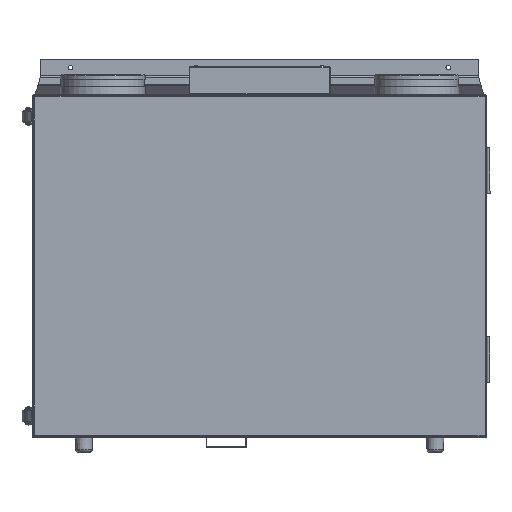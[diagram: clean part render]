
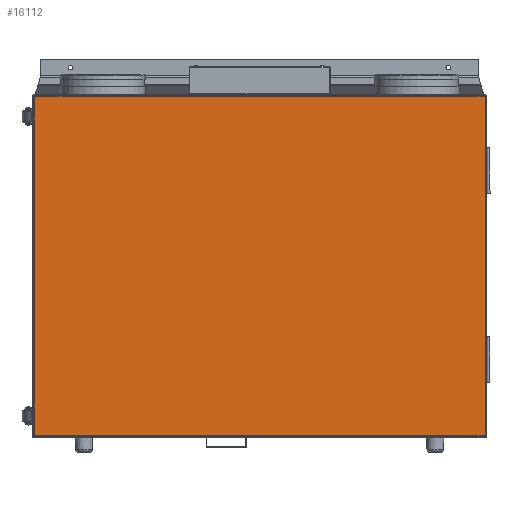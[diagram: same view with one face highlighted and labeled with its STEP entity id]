
A CAD part, top view. The second image highlights one B-rep face of the part: STEP entity #16112.
In plain terms, the highlighted planar face has unit normal (0, 0, 1) as drawn and (0, -1, 0) by its records, which use the part's own axes.
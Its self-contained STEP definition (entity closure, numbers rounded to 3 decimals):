
#444=LINE('',#24039,#1808);
#452=LINE('',#24070,#1816);
#455=LINE('',#24086,#1819);
#459=LINE('',#24094,#1823);
#460=LINE('',#24097,#1824);
#461=LINE('',#24098,#1825);
#462=LINE('',#24100,#1826);
#463=LINE('',#24101,#1827);
#1808=VECTOR('',#19375,1000.);
#1816=VECTOR('',#19403,1000.);
#1819=VECTOR('',#19418,1000.);
#1823=VECTOR('',#19426,1000.);
#1824=VECTOR('',#19427,1000.);
#1825=VECTOR('',#19428,1000.);
#1826=VECTOR('',#19429,1000.);
#1827=VECTOR('',#19430,1000.);
#3514=PLANE('',#17335);
#4536=ORIENTED_EDGE('',*,*,#8802,.T.);
#4537=ORIENTED_EDGE('',*,*,#8803,.T.);
#4538=ORIENTED_EDGE('',*,*,#8790,.T.);
#4539=ORIENTED_EDGE('',*,*,#8797,.T.);
#4540=ORIENTED_EDGE('',*,*,#8804,.T.);
#4541=ORIENTED_EDGE('',*,*,#8805,.T.);
#4542=ORIENTED_EDGE('',*,*,#8775,.T.);
#4543=ORIENTED_EDGE('',*,*,#8806,.T.);
#8775=EDGE_CURVE('',#10942,#10943,#444,.T.);
#8790=EDGE_CURVE('',#10955,#10954,#452,.T.);
#8797=EDGE_CURVE('',#10954,#10961,#455,.T.);
#8802=EDGE_CURVE('',#10964,#10965,#459,.T.);
#8803=EDGE_CURVE('',#10965,#10955,#460,.T.);
#8804=EDGE_CURVE('',#10961,#10966,#461,.T.);
#8805=EDGE_CURVE('',#10966,#10942,#462,.T.);
#8806=EDGE_CURVE('',#10943,#10964,#463,.T.);
#10942=VERTEX_POINT('',#24040);
#10943=VERTEX_POINT('',#24041);
#10954=VERTEX_POINT('',#24069);
#10955=VERTEX_POINT('',#24071);
#10961=VERTEX_POINT('',#24085);
#10964=VERTEX_POINT('',#24095);
#10965=VERTEX_POINT('',#24096);
#10966=VERTEX_POINT('',#24099);
#13154=EDGE_LOOP('',(#4536,#4537,#4538,#4539,#4540,#4541,#4542,#4543));
#14642=FACE_BOUND('',#13154,.T.);
#16112=ADVANCED_FACE('',(#14642),#3514,.F.);
#17335=AXIS2_PLACEMENT_3D('',#24093,#19424,#19425);
#19375=DIRECTION('',(0.,0.,1.));
#19403=DIRECTION('',(0.,0.,-1.));
#19418=DIRECTION('',(0.,0.,-1.));
#19424=DIRECTION('',(0.,1.,0.));
#19425=DIRECTION('',(0.,0.,1.));
#19426=DIRECTION('',(-1.,0.,0.));
#19427=DIRECTION('',(0.,0.,-1.));
#19428=DIRECTION('',(1.,0.,0.));
#19429=DIRECTION('',(0.,0.,1.));
#19430=DIRECTION('',(0.,0.,1.));
#24039=CARTESIAN_POINT('',(430.3,-290.7,1.7));
#24040=CARTESIAN_POINT('',(430.3,-290.7,2.402));
#24041=CARTESIAN_POINT('',(430.3,-290.7,631.598));
#24069=CARTESIAN_POINT('',(-405.3,-290.7,2.402));
#24070=CARTESIAN_POINT('',(-405.3,-290.7,632.3));
#24071=CARTESIAN_POINT('',(-405.3,-290.7,631.598));
#24085=CARTESIAN_POINT('',(-405.3,-290.7,1.7));
#24086=CARTESIAN_POINT('',(-405.3,-290.7,632.3));
#24093=CARTESIAN_POINT('',(0.,-290.7,0.));
#24094=CARTESIAN_POINT('',(432.,-290.7,632.3));
#24095=CARTESIAN_POINT('',(430.3,-290.7,632.3));
#24096=CARTESIAN_POINT('',(-405.3,-290.7,632.3));
#24097=CARTESIAN_POINT('',(-405.3,-290.7,632.3));
#24098=CARTESIAN_POINT('',(-407.,-290.7,1.7));
#24099=CARTESIAN_POINT('',(430.3,-290.7,1.7));
#24100=CARTESIAN_POINT('',(430.3,-290.7,1.7));
#24101=CARTESIAN_POINT('',(430.3,-290.7,1.7));
